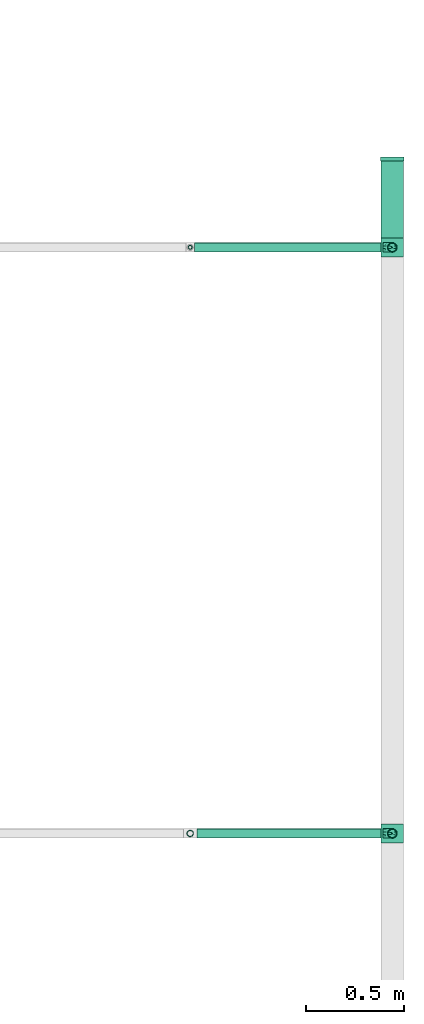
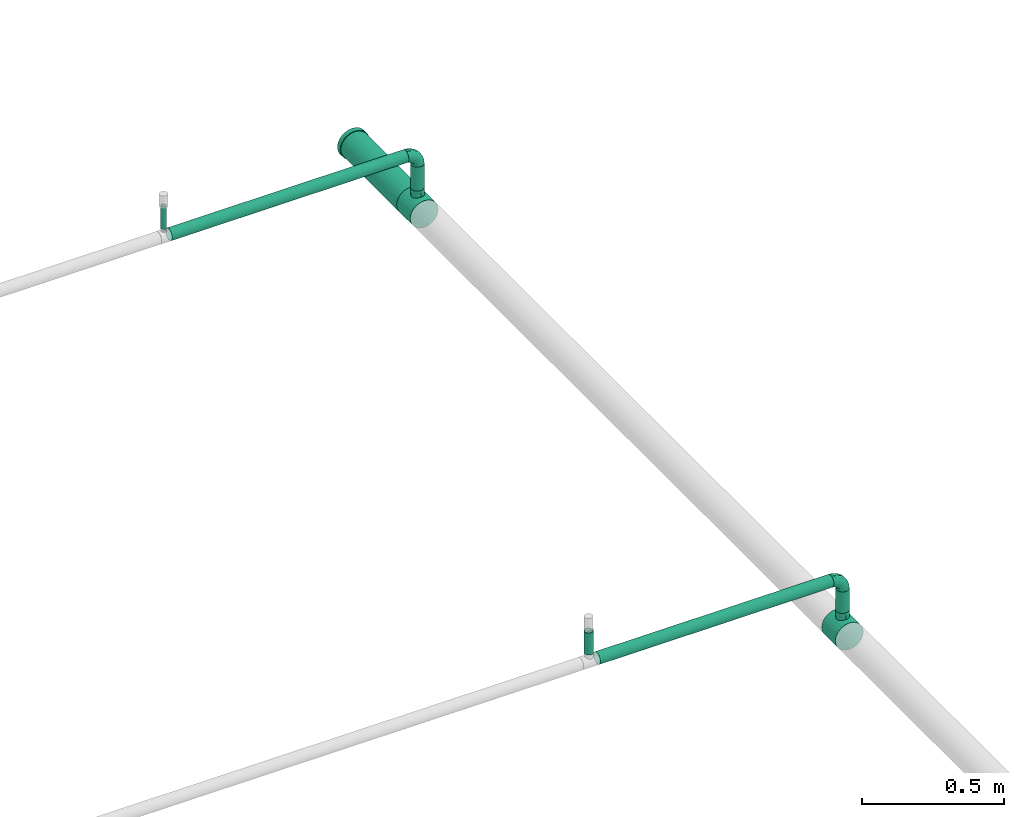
# One storey, part 6 of 14: 7 flow segments, 5 flow fittings.
"""IFC2X3 building model written with IfcOpenShell, lengths in millimetres."""

from ifc_helpers import new_model, entity, si_unit, converted_unit, derived_unit, direction, frame, origin_with_axes, origin_2d_with_axis, place, context, subcontext, project, spatial, hollow_circle, extrude, open_shell, surface_model, source, transform, mapped, type_object, element, save


model = new_model("IFC2X3")

# Units and contexts
model_context = context("Model", 3, precision=0.01, world=frame((0.0, 4.29681676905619e-09, 0.0)), true_north=direction((4.01073788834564e-13, 1.0)))
plan_context = context("Plan", 3, precision=0.01, world=frame((0.0, 4.29681676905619e-09, 0.0)), true_north=direction((4.01073788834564e-13, 1.0)))
body_context = subcontext(model_context, "Body", "Model", "MODEL_VIEW")
ifc_project = project(units=[converted_unit("PLANEANGLEUNIT", "DEGREE", entity("IfcPositiveLengthMeasure", 0.0174532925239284), si_unit("PLANEANGLEUNIT", "RADIAN"), dimensions=[0, 0, 0, 0, 0, 0, 0]), si_unit("AREAUNIT", "SQUARE_METRE"), si_unit("LENGTHUNIT", "METRE", prefix="MILLI"), si_unit("MASSUNIT", "GRAM", prefix="KILO"), si_unit("POWERUNIT", "WATT"), si_unit("PRESSUREUNIT", "PASCAL"), si_unit("FORCEUNIT", "NEWTON", prefix="KILO"), si_unit("ELECTRICVOLTAGEUNIT", "VOLT"), si_unit("ELECTRICCURRENTUNIT", "AMPERE"), si_unit("THERMODYNAMICTEMPERATUREUNIT", "DEGREE_CELSIUS"), si_unit("TIMEUNIT", "SECOND"), si_unit("VOLUMEUNIT", "CUBIC_METRE"), derived_unit("LINEARVELOCITYUNIT", [(si_unit("LENGTHUNIT", "METRE"), 1), (si_unit("TIMEUNIT", "SECOND"), -1)]), derived_unit("VOLUMETRICFLOWRATEUNIT", [(si_unit("VOLUMEUNIT", "CUBIC_METRE"), 1), (si_unit("TIMEUNIT", "SECOND"), -1)]), derived_unit("THERMALTRANSMITTANCEUNIT", [(si_unit("POWERUNIT", "WATT"), 1), (si_unit("THERMODYNAMICTEMPERATUREUNIT", "KELVIN"), -1), (si_unit("AREAUNIT", "SQUARE_METRE"), -1)]), derived_unit("SOUNDPRESSUREUNIT", [(si_unit("PRESSUREUNIT", "PASCAL"), 1)])], contexts=[model_context, plan_context])

# Site, building, storey
site_placement = place(None, frame((0.0, -4.29681676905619e-09, 0.0), z_axis=(0.0, 0.0, 1.0), x_axis=(1.0, 0.0, 0.0)))
site = spatial("IfcSite", under=ifc_project, at=site_placement, CompositionType="ELEMENT")
building_placement = place(site_placement, frame((0.0, 4.29681676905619e-09, 0.0), z_axis=(0.0, 0.0, 1.0), x_axis=(1.0, 0.0, 0.0)))
building = spatial("IfcBuilding", under=site, at=building_placement, Name="mc-building", CompositionType="ELEMENT")
storey_placement = place(building_placement, frame((0.0, 0.0, 204000.0), z_axis=(0.0, 0.0, 1.0), x_axis=(1.0, 0.0, 0.0)))
storey = spatial("IfcBuildingStorey", under=building, at=storey_placement, Name="Nivå D", CompositionType="ELEMENT", Elevation=204000.0)

# Flow fittings
pipe_fitting_type_1 = type_object("IfcPipeFittingType", Name="magi_sewer_endcap_001", PredefinedType="OBSTRUCTION")
shared_shape_1 = source(origin_with_axes(), body_context, "Body", "SurfaceModel", [
    surface_model("IfcShellBasedSurfaceModel", [(20.0, 30.0, -51.96152), (20.0, -42.42641, -42.42641), (20.0, 15.52914, -57.95555), (20.0, 51.96152, -30.0), (20.0, 42.42641, -42.42641), (20.0, 57.95555, -15.52914), (20.0, 60.0, 0.0), (20.0, 0.0, -60.0), (20.0, -30.0, -51.96152), (20.0, -15.52914, -57.95555), (20.0, 57.95555, 15.52914), (20.0, -51.96152, -30.0), (20.0, -60.0, 0.0), (20.0, -57.95555, -15.52914), (20.0, 51.96152, 30.0), (20.0, 42.42641, 42.42641), (20.0, 15.52914, 57.95555), (20.0, 0.0, 60.0), (20.0, 30.0, 51.96152), (20.0, -51.96152, 30.0), (20.0, -57.95555, 15.52914), (20.0, -30.0, 51.96152), (20.0, -42.42641, 42.42641), (20.0, -15.52914, 57.95555), (0.0, 42.42641, 42.42641), (0.0, 0.0, 60.0), (0.0, 15.52914, 57.95555), (0.0, 30.0, 51.96152), (0.0, 51.96152, 30.0), (0.0, 57.95555, 15.52914), (0.0, -60.0, 0.0), (0.0, -30.0, 51.96152), (0.0, -51.96152, 30.0), (0.0, -42.42641, 42.42641), (0.0, -15.52914, 57.95555), (0.0, -57.95555, 15.52914), (0.0, -51.96152, -30.0), (0.0, -42.42641, -42.42641), (0.0, 57.95555, -15.52914), (0.0, 42.42641, -42.42641), (0.0, 51.96152, -30.0), (0.0, 30.0, -51.96152), (0.0, 15.52914, -57.95555), (0.0, -57.95555, -15.52914), (0.0, -30.0, -51.96152), (0.0, 0.0, -60.0), (0.0, -15.52914, -57.95555), (0.0, 60.0, 0.0)], [open_shell([[[0, 1, 2]], [[3, 0, 4]], [[5, 6, 0]], [[5, 0, 3]], [[1, 0, 6]], [[7, 8, 9]], [[8, 7, 1]], [[2, 1, 7]], [[1, 10, 11]], [[11, 12, 13]], [[10, 1, 6]], [[10, 14, 15]], [[12, 10, 15]], [[16, 17, 15]], [[16, 15, 18]], [[19, 15, 17]], [[12, 19, 20]], [[12, 15, 19]], [[19, 21, 22]], [[19, 17, 21]], [[23, 21, 17]], [[10, 12, 11]], [[24, 25, 26]], [[24, 26, 27]], [[24, 28, 29]], [[25, 24, 30]], [[30, 24, 29]], [[31, 32, 33]], [[31, 34, 25]], [[32, 30, 35]], [[31, 25, 32]], [[25, 30, 32]], [[29, 36, 30]], [[37, 29, 38]], [[39, 38, 40]], [[41, 42, 38]], [[41, 38, 39]], [[37, 38, 42]], [[37, 36, 29]], [[43, 30, 36]], [[44, 45, 46]], [[45, 44, 37]], [[45, 37, 42]], [[47, 38, 29]], [[43, 13, 30]], [[36, 11, 43]], [[8, 37, 44]], [[36, 37, 1]], [[9, 44, 46]], [[43, 11, 13]], [[13, 12, 30]], [[9, 8, 44]], [[1, 37, 8]], [[1, 11, 36]], [[7, 9, 46]], [[46, 45, 7]], [[42, 2, 45]], [[41, 0, 42]], [[3, 39, 40]], [[41, 39, 4]], [[5, 40, 38]], [[41, 4, 0]], [[0, 2, 42]], [[6, 5, 38]], [[3, 40, 5]], [[3, 4, 39]], [[47, 6, 38]], [[45, 2, 7]], [[29, 10, 47]], [[28, 14, 29]], [[18, 24, 27]], [[28, 24, 15]], [[16, 27, 26]], [[29, 14, 10]], [[10, 6, 47]], [[16, 18, 27]], [[15, 24, 18]], [[15, 14, 28]], [[17, 16, 26]], [[26, 25, 17]], [[34, 23, 25]], [[31, 21, 34]], [[19, 33, 32]], [[31, 33, 22]], [[20, 32, 35]], [[31, 22, 21]], [[21, 23, 34]], [[12, 20, 35]], [[19, 32, 20]], [[19, 22, 33]], [[30, 12, 35]], [[25, 23, 17]]])]),
])
flow_fitting_placement = place(storey_placement, frame((609234.47302, 697244.26106, 5902.60000000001), z_axis=(0.0, 0.0, 1.0), x_axis=(0.0, 1.0, 0.0)))
element("IfcFlowFitting", 1, at=flow_fitting_placement, inside=storey, type_object=pipe_fitting_type_1, Name="magi_sewer_endcap_001", context=body_context, shape_type="MappedRepresentation", body=[
    mapped(shared_shape_1, transform((0.0, 0.0, 0.0), scale=1.0)),
])
pipe_fitting_type_2 = type_object("IfcPipeFittingType", Name="magi_pipe_fe_tee_centric_90_NOR", PredefinedType="JUNCTION")
shared_shape_2 = source(origin_with_axes(), body_context, "Body", "SurfaceModel", [
    surface_model("IfcShellBasedSurfaceModel", [(0.0, -85.8, -24.2), (6.26342, -85.8, -23.37541), (12.1, -85.8, -20.95781), (12.1, -85.8, 20.95781), (17.11198, -85.8, -17.11198), (20.95781, -85.8, -12.1), (23.37541, -85.8, -6.26342), (-12.1, -85.8, -20.95781), (-20.95781, -85.8, -12.1), (-17.11198, -85.8, -17.11198), (-6.26342, -85.8, -23.37541), (-23.37541, -85.8, -6.26342), (-24.2, -85.8, 0.0), (24.2, -85.8, 0.0), (23.37541, -85.8, 6.26342), (20.95781, -85.8, 12.1), (-23.37541, -85.8, 6.26342), (17.11198, -85.8, 17.11198), (6.26342, -85.8, 23.37541), (-17.11198, -85.8, 17.11198), (-20.95781, -85.8, 12.1), (-12.1, -85.8, 20.95781), (0.0, -85.8, 24.2), (-6.26342, -85.8, 23.37541), (-23.4577, -56.89395, 4.17285), (-4.25098, -52.0026, 23.82371), (-8.20207, -52.6185, 22.37537), (-12.15317, -53.23438, 20.92703), (-22.7154, -56.58789, 8.3457), (23.45736, -56.89381, 4.17377), (22.71472, -56.58762, 8.34755), (-18.5206, -55.03828, 15.5765), (-24.2, -57.2, 0.0), (8.19772, -52.61799, 22.37656), (4.24432, -52.00206, 23.8249), (-0.00333, -52.00233, 23.8243), (12.15111, -53.23391, 20.92823), (18.51418, -55.03613, 15.58413), (24.2, -57.2, 0.0), (23.45736, -56.89381, -4.17377), (18.51418, -55.03613, -15.58413), (8.19772, -52.61799, -22.37656), (12.15111, -53.23391, -20.92823), (22.71472, -56.58762, -8.34755), (4.24432, -52.00206, -23.8249), (-4.25098, -52.0026, -23.82371), (-0.00333, -52.00233, -23.8243), (-8.20207, -52.6185, -22.37537), (-23.4577, -56.89395, -4.17285), (-12.15317, -53.23438, -20.92703), (-22.7154, -56.58789, -8.3457), (-18.5206, -55.03828, -15.5765), (-48.4, 0.0, -57.2), (-48.4, -14.80445, -55.25096), (-48.4, 14.80445, -55.25096), (-48.4, 28.6, -49.53665), (-48.4, 40.44651, -40.44651), (-48.4, 55.25096, -14.80445), (-48.4, 49.53665, -28.6), (-48.4, -28.6, -49.53665), (-48.4, -40.44651, -40.44651), (-48.4, -49.53665, -28.6), (-48.4, -55.25096, -14.80445), (-48.4, -57.2, 0.0), (-48.4, -28.6, 49.53665), (-48.4, 49.53665, 28.6), (-48.4, 55.25096, 14.80445), (-48.4, 57.2, 0.0), (-48.4, 40.44651, 40.44651), (-48.4, 14.80445, 55.25096), (-48.4, 28.6, 49.53665), (-48.4, 0.0, 57.2), (-48.4, -55.25096, 14.80445), (-48.4, -49.53665, 28.6), (-48.4, -40.44651, 40.44651), (-48.4, -14.80445, 55.25096), (48.4, 14.80445, -55.25096), (48.4, -14.80445, -55.25096), (48.4, 0.0, -57.2), (48.4, 40.44651, -40.44651), (48.4, 28.6, -49.53665), (48.4, 49.53665, -28.6), (48.4, 55.25096, -14.80445), (48.4, -40.44651, -40.44651), (48.4, -28.6, -49.53665), (48.4, -49.53665, -28.6), (48.4, -40.44651, 40.44651), (48.4, -55.25096, -14.80445), (48.4, -57.2, 0.0), (48.4, -28.6, 49.53665), (48.4, 57.2, 0.0), (48.4, 55.25096, 14.80445), (48.4, 49.53665, 28.6), (48.4, 40.44651, 40.44651), (48.4, 28.6, 49.53665), (48.4, 14.80445, 55.25096), (48.4, 0.0, 57.2), (48.4, -49.53665, 28.6), (48.4, -55.25096, 14.80445), (48.4, -14.80445, 55.25096), (48.4, -56.22548, 7.40222), (-48.4, -56.22548, 7.40222), (48.4, -56.22548, -7.40222), (-48.4, -56.22548, -7.40222)], [open_shell([[[0, 1, 2]], [[3, 0, 2]], [[4, 5, 6]], [[4, 6, 2]], [[3, 7, 0]], [[7, 8, 9]], [[7, 10, 0]], [[7, 11, 8]], [[11, 7, 12]], [[7, 3, 12]], [[13, 2, 6]], [[13, 14, 15]], [[13, 15, 3]], [[3, 16, 12]], [[3, 15, 17]], [[16, 3, 18]], [[16, 19, 20]], [[16, 18, 19]], [[21, 22, 23]], [[22, 21, 19]], [[18, 22, 19]], [[3, 2, 13]], [[16, 24, 12]], [[22, 25, 23]], [[26, 21, 23]], [[26, 27, 21]], [[16, 28, 24]], [[28, 16, 20]], [[29, 30, 14]], [[31, 20, 19]], [[24, 32, 12]], [[28, 20, 31]], [[3, 33, 18]], [[27, 31, 19]], [[23, 25, 26]], [[27, 19, 21]], [[22, 34, 35]], [[3, 36, 33]], [[17, 36, 3]], [[30, 15, 14]], [[17, 15, 37]], [[34, 22, 18]], [[33, 34, 18]], [[35, 25, 22]], [[36, 17, 37]], [[37, 15, 30]], [[13, 29, 14]], [[29, 13, 38]], [[6, 39, 13]], [[4, 40, 5]], [[41, 42, 2]], [[6, 43, 39]], [[5, 43, 6]], [[42, 4, 2]], [[39, 38, 13]], [[43, 5, 40]], [[1, 44, 41]], [[42, 40, 4]], [[0, 45, 46]], [[7, 47, 10]], [[48, 12, 32]], [[47, 7, 49]], [[41, 2, 1]], [[48, 50, 11]], [[9, 49, 7]], [[50, 8, 11]], [[51, 9, 8]], [[45, 0, 10]], [[47, 45, 10]], [[46, 44, 0]], [[49, 9, 51]], [[51, 8, 50]], [[12, 48, 11]], [[0, 44, 1]], [[52, 53, 54]], [[55, 54, 56]], [[57, 58, 56]], [[54, 57, 56]], [[57, 54, 53]], [[59, 60, 53]], [[61, 53, 60]], [[62, 63, 61]], [[53, 61, 63]], [[64, 53, 63]], [[64, 57, 53]], [[65, 66, 67]], [[68, 65, 67]], [[69, 70, 68]], [[67, 69, 68]], [[71, 69, 67]], [[72, 73, 63]], [[73, 74, 63]], [[75, 71, 64]], [[74, 64, 63]], [[64, 71, 67]], [[67, 57, 64]], [[76, 77, 78]], [[79, 76, 80]], [[79, 81, 82]], [[79, 82, 76]], [[77, 76, 82]], [[77, 83, 84]], [[77, 82, 83]], [[82, 85, 83]], [[85, 86, 87]], [[86, 88, 87]], [[89, 85, 82]], [[90, 91, 92]], [[93, 82, 92]], [[93, 94, 95]], [[95, 82, 93]], [[96, 82, 95]], [[88, 97, 98]], [[88, 86, 97]], [[89, 96, 99]], [[85, 89, 86]], [[96, 89, 82]], [[92, 82, 90]], [[100, 98, 30]], [[38, 88, 100]], [[89, 64, 86]], [[28, 31, 72]], [[97, 74, 73]], [[95, 94, 70]], [[65, 93, 92]], [[28, 72, 101]], [[38, 100, 30]], [[81, 56, 58]], [[43, 87, 102]], [[32, 103, 50]], [[83, 60, 84]], [[61, 83, 85]], [[43, 40, 87]], [[61, 44, 45]], [[45, 49, 61]], [[51, 50, 62]], [[50, 103, 62]], [[103, 32, 63]], [[49, 62, 61]], [[98, 37, 30]], [[34, 97, 73]], [[37, 98, 36]], [[34, 36, 97]], [[97, 86, 74]], [[36, 98, 97]], [[28, 101, 32]], [[63, 32, 101]], [[27, 25, 73]], [[73, 72, 27]], [[25, 34, 73]], [[27, 72, 31]], [[86, 64, 74]], [[71, 99, 96]], [[75, 89, 99]], [[69, 96, 95]], [[92, 91, 66]], [[68, 94, 93]], [[67, 91, 90]], [[64, 89, 75]], [[75, 99, 71]], [[69, 71, 96]], [[95, 70, 69]], [[70, 94, 68]], [[65, 68, 93]], [[66, 65, 92]], [[91, 67, 66]], [[67, 90, 82]], [[57, 82, 81]], [[56, 81, 79]], [[78, 77, 53]], [[54, 80, 76]], [[78, 52, 76]], [[79, 80, 55]], [[59, 77, 84]], [[58, 57, 81]], [[67, 82, 57]], [[56, 79, 55]], [[55, 80, 54]], [[52, 54, 76]], [[53, 52, 78]], [[77, 59, 53]], [[84, 60, 59]], [[42, 44, 85]], [[85, 87, 42]], [[61, 85, 44]], [[88, 38, 102]], [[43, 102, 38]], [[87, 40, 42]], [[60, 83, 61]], [[51, 62, 49]]])]),
])
for number, where, z_axis, x_axis, name in (
    (2, (609234.47302, 696802.46783, 5902.60000000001), (-1.0, 0.0, 0.0), (0.0, 1.0, 0.0), "magi_pipe_fe_tee_centric_90_NOR"),
    (3, (609234.47302, 693802.46783, 5902.60000000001), (-1.0, 0.0, 0.0), (0.0, 1.0, 0.0), "magi_pipe_fe_tee_centric_90_NOR"),
):
    element("IfcFlowFitting", number, at=place(storey_placement, frame(where, z_axis=z_axis, x_axis=x_axis)), inside=storey, type_object=pipe_fitting_type_2, Name=name, context=body_context, shape_type="MappedRepresentation", body=[
        mapped(shared_shape_2, transform((0.0, 0.0, 0.0), scale=1.0)),
    ])
pipe_fitting_type_3 = type_object("IfcPipeFittingType", Name="magi_pipe_fe_elbow_short_001", PredefinedType="BEND")
shared_shape_3 = source(origin_with_axes(), body_context, "Body", "SurfaceModel", [
    surface_model("IfcShellBasedSurfaceModel", [(-48.39495, 6.26342, -23.37541), (-48.39495, 0.0, -24.2), (-48.39495, 17.11198, -17.11198), (-48.39495, 12.1, -20.95781), (-48.39495, 23.37541, -6.26342), (-48.39495, 20.95781, -12.1), (-48.39495, -12.1, -20.95781), (-48.39495, -17.11198, -17.11198), (-48.39495, -20.95781, -12.1), (-48.39495, -6.26342, -23.37541), (-48.39495, -23.37541, -6.26342), (-48.39495, -24.2, 0.0), (-48.39495, -23.37541, 6.26342), (-48.39495, 23.37541, 6.26342), (-48.39495, 6.26342, 23.37541), (-48.39495, 20.95781, 12.1), (-48.39495, 17.11198, 17.11198), (-48.39495, 12.1, 20.95781), (-48.39495, -12.1, 20.95781), (-48.39495, -20.95781, 12.1), (-48.39495, -17.11198, 17.11198), (-48.39495, -6.26342, 23.37541), (-48.39495, 0.0, 24.2), (-48.39495, 24.2, 0.0), (-17.10694, 48.39674, -17.11198), (0.00505, 48.39495, -24.2), (-6.25837, 48.39561, -23.37541), (-12.09495, 48.39621, -20.95781), (12.10505, 48.39369, -20.95781), (12.10505, 48.39369, 20.95781), (-20.95277, 48.39714, -12.1), (20.96286, 48.39277, -12.1), (17.11703, 48.39317, -17.11198), (6.26847, 48.3943, -23.37541), (23.38045, 48.39252, -6.26342), (23.38045, 48.39252, 6.26342), (24.20505, 48.39243, 0.0), (-23.37036, 48.39739, -6.26342), (-24.19495, 48.39748, 0.0), (-23.37036, 48.39739, 6.26342), (-20.95277, 48.39714, 12.1), (-12.09495, 48.39621, 20.95781), (-6.25837, 48.39561, 23.37541), (-17.10694, 48.39674, 17.11198), (17.11703, 48.39317, 17.11198), (20.96286, 48.39277, 12.1), (0.00505, 48.39495, 24.2), (6.26847, 48.3943, 23.37541), (-35.49835, -18.80067, 13.58527), (-31.77393, -13.96169, 18.03285), (-34.50442, -21.43719, 0.0), (-21.38691, -15.41121, 12.21423), (-32.15781, -21.12196, 7.54758), (21.12531, 32.1556, 7.54758), (17.07794, 18.95011, 6.20365), (18.67653, 20.61194, 0.0), (-23.65163, 38.62202, 10.51808), (-20.21196, 37.67402, 15.89849), (-35.56481, -9.151, 21.7726), (-36.96567, -3.20585, 23.78615), (-33.88345, 3.70951, 24.15874), (-8.83778, -10.8065, 0.0), (-18.95189, -17.07597, 6.20365), (-20.61389, -18.67438, 0.0), (-18.69375, -5.87403, 20.10505), (-24.08986, -0.21756, 23.45602), (-2.07801, -4.09022, 10.90557), (-0.40409, 0.49725, 14.45705), (-8.22338, -5.79591, 14.91067), (-37.82566, 20.17361, 15.88157), (-8.40808, 23.79597, 24.15652), (-17.92221, 17.92408, 23.61187), (-14.40757, 10.57402, 24.07544), (-41.865, 14.65508, 19.71864), (-9.02908, 41.74, 22.66758), (-3.31296, 36.1955, 24.14055), (-38.63159, 23.65175, 10.51647), (-38.25646, 25.7757, 5.32042), (-30.04344, 30.04658, 9.04604), (-37.29962, 9.49118, 22.86033), (-6.31426, 16.20517, 23.7619), (-12.02105, 4.43931, 22.59825), (-2.46883, 13.07252, 22.23952), (-4.32047, 4.32092, 19.78596), (13.965, 31.77248, 18.03285), (15.41344, 21.3853, 12.21423), (18.80438, 35.49639, 13.58527), (-25.72438, 16.41917, 22.38349), (-26.58892, 10.3654, 23.76691), (3.20971, 36.96534, 23.78615), (9.15471, 35.56385, 21.7726), (5.87598, 18.69313, 20.10505), (21.44079, 34.50218, 0.0), (-23.7433, 5.92981, 24.18969), (-22.40019, 25.55342, 19.88499), (-33.32089, 16.427, 20.37872), (-25.46942, 39.03792, 5.19169), (-30.32602, 31.73937, 4.25884), (11.04791, 19.59522, 16.55192), (-27.43798, 36.29854, 0.0), (-10.46242, 32.78885, 23.04703), (-13.80665, 25.04925, 23.26339), (-17.54151, 31.27588, 20.33933), (-19.27691, 23.42722, 22.01911), (-14.78026, 40.57623, 19.81908), (-19.59637, -11.04586, 16.55192), (-25.09333, 32.07805, 13.6973), (-25.50626, 27.02442, 17.14176), (-31.07693, 26.00298, 13.49414), (0.22007, 24.08984, 23.45602), (5.51353, 8.4012, 15.32779), (-11.48107, -10.8025, 11.36), (1.43966, -3.14414, 6.55329), (7.35383, 4.30878, 8.44905), (7.50226, 2.50186, 3.62735), (12.46678, 10.08742, 5.71029), (12.15833, 12.55306, 10.15046), (-36.29568, 27.44176, 0.0), (-6.51653, -9.62258, 7.02763), (2.93832, -2.93863, 0.0), (10.80743, 8.83665, 0.0), (-19.59637, -11.04586, -16.55192), (-31.77393, -13.96169, -18.03285), (-18.69375, -5.87403, -20.10505), (-21.38691, -15.41121, -12.21423), (-37.67191, 20.21589, -15.89849), (-40.57469, 14.78449, -19.81908), (-39.03527, 25.47349, -5.19169), (-32.15781, -21.12196, -7.54758), (-30.04344, 30.04658, -9.04604), (-38.61956, 23.65566, -10.51808), (-18.95189, -17.07597, -6.20365), (-23.42521, 19.27935, -22.01911), (-25.04781, 13.80926, -23.26339), (-31.27405, 17.54478, -20.33933), (-14.65071, 41.86652, -19.71865), (-20.16966, 37.82776, -15.88157), (9.15471, 35.56385, -21.7726), (5.87598, 18.69313, -20.10505), (0.22007, 24.08984, -23.45602), (-41.73906, 9.03344, -22.66758), (-35.49835, -18.80067, -13.58527), (-35.56481, -9.151, -21.7726), (-16.41648, 25.72609, -22.38349), (-9.48729, 37.30061, -22.86033), (-10.36263, 26.59, -23.76691), (-36.96567, -3.20585, -23.78615), (-23.79509, 8.41056, -24.15652), (-17.92221, 17.92408, -23.61187), (-10.57252, 14.40867, -24.07544), (-36.19515, 3.31674, -24.14055), (-25.77171, 38.25915, -5.32042), (-23.64772, 38.63406, -10.51647), (-32.78776, 10.46584, -23.04703), (-31.73621, 30.32932, -4.25884), (-5.92734, 23.74391, -24.18969), (-25.55108, 22.40285, -19.88499), (-16.42353, 33.32261, -20.37872), (3.20971, 36.96534, -23.78615), (-3.70598, 33.88384, -24.15874), (18.80438, 35.49639, -13.58527), (13.965, 31.77248, -18.03285), (7.50227, 2.50187, -3.62735), (12.46678, 10.08742, -5.71029), (-16.20451, 6.31595, -23.7619), (-4.43805, 12.02151, -22.59825), (-13.07226, 2.47019, -22.23952), (1.43966, -3.14415, -6.55329), (-6.51653, -9.62258, -7.02763), (-2.07801, -4.09022, -10.90556), (15.41344, 21.3853, -12.21423), (21.12531, 32.1556, -7.54758), (17.07794, 18.95011, -6.20365), (-32.07543, 25.09667, -13.6973), (11.04791, 19.59522, -16.55192), (12.15833, 12.55306, -10.15046), (5.51353, 8.4012, -15.32779), (-27.02177, 25.50908, -17.14176), (-25.99974, 31.07964, -13.49414), (-24.08986, -0.21756, -23.45602), (-4.32047, 4.32092, -19.78596), (-8.22338, -5.79591, -14.91067), (-11.48107, -10.8025, -11.36), (-0.40409, 0.49725, -14.45705), (7.35383, 4.30878, -8.44906)], [open_shell([[[0, 1, 2]], [[3, 0, 2]], [[4, 5, 2]], [[6, 2, 1]], [[4, 2, 6]], [[7, 8, 6]], [[1, 9, 6]], [[8, 10, 6]], [[6, 10, 4]], [[11, 12, 10]], [[13, 4, 10]], [[14, 13, 10]], [[15, 13, 16]], [[13, 14, 17]], [[16, 13, 17]], [[10, 18, 14]], [[19, 20, 12]], [[20, 10, 12]], [[21, 22, 18]], [[20, 18, 10]], [[18, 22, 14]], [[23, 4, 13]], [[24, 25, 26]], [[24, 26, 27]], [[28, 25, 29]], [[30, 25, 24]], [[29, 25, 30]], [[28, 31, 32]], [[28, 33, 25]], [[28, 34, 31]], [[28, 29, 34]], [[34, 35, 36]], [[30, 37, 38]], [[38, 39, 40]], [[38, 40, 41]], [[41, 42, 38]], [[41, 40, 43]], [[42, 29, 30]], [[35, 44, 45]], [[35, 34, 44]], [[29, 46, 47]], [[34, 29, 44]], [[42, 46, 29]], [[30, 38, 42]], [[20, 48, 49]], [[12, 11, 50]], [[51, 48, 52]], [[53, 54, 55]], [[48, 20, 19]], [[12, 52, 19]], [[40, 56, 57]], [[49, 18, 20]], [[49, 58, 18]], [[22, 59, 60]], [[61, 62, 63]], [[58, 64, 65]], [[66, 67, 68]], [[15, 16, 69]], [[70, 71, 72]], [[17, 73, 16]], [[21, 59, 22]], [[42, 74, 75]], [[22, 60, 14]], [[15, 69, 76]], [[16, 73, 69]], [[23, 13, 77]], [[13, 15, 76]], [[77, 76, 78]], [[14, 79, 17]], [[80, 81, 82]], [[68, 83, 64]], [[84, 44, 29]], [[85, 86, 84]], [[87, 79, 88]], [[18, 58, 21]], [[46, 89, 47]], [[53, 35, 45]], [[46, 42, 75]], [[84, 90, 91]], [[45, 86, 53]], [[92, 35, 53]], [[86, 45, 44]], [[90, 29, 47]], [[53, 55, 92]], [[88, 93, 72]], [[54, 53, 85]], [[87, 94, 95]], [[78, 96, 97]], [[98, 84, 91]], [[99, 96, 38]], [[79, 14, 60]], [[96, 78, 56]], [[62, 52, 63]], [[57, 43, 40]], [[100, 70, 75]], [[101, 102, 103]], [[12, 50, 52]], [[104, 41, 43]], [[74, 42, 41]], [[57, 102, 104]], [[105, 64, 49]], [[90, 84, 29]], [[40, 39, 56]], [[56, 106, 57]], [[102, 57, 107]], [[95, 107, 69]], [[76, 108, 78]], [[100, 101, 70]], [[89, 75, 109]], [[64, 58, 49]], [[63, 52, 50]], [[59, 58, 65]], [[105, 49, 51]], [[64, 83, 81]], [[89, 90, 47]], [[36, 35, 92]], [[109, 82, 91]], [[109, 91, 90]], [[91, 83, 110]], [[111, 68, 105]], [[66, 68, 111]], [[62, 51, 52]], [[66, 112, 113]], [[114, 115, 113]], [[98, 85, 84]], [[52, 48, 19]], [[49, 48, 51]], [[84, 86, 44]], [[53, 86, 85]], [[88, 79, 60]], [[73, 79, 95]], [[96, 56, 39]], [[78, 108, 106]], [[87, 103, 94]], [[100, 74, 104]], [[108, 69, 107]], [[78, 97, 77]], [[88, 72, 71]], [[109, 75, 70]], [[81, 72, 65]], [[70, 72, 80]], [[75, 89, 46]], [[90, 89, 109]], [[58, 59, 21]], [[60, 59, 65]], [[67, 83, 68]], [[110, 113, 116]], [[88, 60, 93]], [[87, 88, 71]], [[103, 87, 71]], [[79, 87, 95]], [[101, 103, 71]], [[94, 103, 102]], [[38, 96, 39]], [[96, 99, 97]], [[99, 117, 97]], [[97, 117, 77]], [[23, 77, 117]], [[13, 76, 77]], [[60, 65, 93]], [[65, 72, 93]], [[70, 101, 71]], [[102, 101, 100]], [[69, 108, 76]], [[106, 108, 107]], [[57, 106, 107]], [[78, 106, 56]], [[57, 104, 43]], [[100, 104, 102]], [[102, 107, 94]], [[95, 94, 107]], [[64, 81, 65]], [[82, 81, 83]], [[91, 82, 83]], [[80, 82, 109]], [[70, 80, 109]], [[81, 80, 72]], [[79, 73, 17]], [[69, 73, 95]], [[104, 74, 41]], [[75, 74, 100]], [[62, 61, 118]], [[111, 62, 118]], [[113, 115, 116]], [[119, 118, 61]], [[111, 105, 51]], [[113, 112, 114]], [[120, 55, 54]], [[68, 64, 105]], [[91, 110, 98]], [[116, 98, 110]], [[62, 111, 51]], [[66, 111, 118]], [[112, 66, 118]], [[67, 113, 110]], [[118, 119, 112]], [[114, 112, 119]], [[119, 120, 114]], [[115, 120, 54]], [[120, 115, 114]], [[116, 54, 85]], [[54, 116, 115]], [[116, 85, 98]], [[113, 67, 66]], [[83, 67, 110]], [[121, 122, 123]], [[122, 121, 124]], [[5, 125, 2]], [[2, 126, 3]], [[117, 127, 23]], [[50, 10, 128]], [[127, 129, 130]], [[128, 131, 63]], [[132, 133, 134]], [[24, 135, 136]], [[137, 138, 139]], [[3, 140, 0]], [[128, 8, 141]], [[142, 6, 9]], [[128, 63, 50]], [[5, 4, 130]], [[8, 7, 141]], [[143, 144, 145]], [[146, 9, 1]], [[147, 148, 149]], [[8, 128, 10]], [[124, 141, 122]], [[150, 1, 0]], [[151, 152, 129]], [[125, 134, 126]], [[153, 147, 150]], [[127, 154, 129]], [[145, 155, 149]], [[38, 37, 151]], [[143, 156, 157]], [[152, 37, 30]], [[25, 158, 159]], [[122, 7, 6]], [[24, 27, 135]], [[144, 27, 26]], [[32, 160, 161]], [[25, 33, 158]], [[120, 162, 163]], [[130, 125, 5]], [[24, 136, 30]], [[0, 140, 150]], [[28, 161, 137]], [[142, 122, 6]], [[25, 159, 26]], [[164, 165, 166]], [[167, 168, 169]], [[31, 160, 32]], [[161, 28, 32]], [[170, 160, 171]], [[131, 128, 124]], [[36, 92, 34]], [[34, 92, 171]], [[172, 171, 55]], [[34, 171, 31]], [[144, 26, 159]], [[130, 173, 125]], [[174, 175, 176]], [[136, 152, 30]], [[28, 137, 33]], [[122, 142, 123]], [[134, 125, 177]], [[157, 177, 136]], [[152, 178, 129]], [[153, 133, 147]], [[146, 150, 179]], [[146, 142, 9]], [[11, 10, 50]], [[179, 166, 123]], [[179, 123, 142]], [[123, 180, 181]], [[138, 137, 161]], [[55, 171, 92]], [[158, 137, 139]], [[174, 161, 170]], [[138, 180, 165]], [[180, 138, 176]], [[124, 121, 182]], [[176, 183, 180]], [[61, 131, 168]], [[169, 168, 182]], [[172, 170, 171]], [[122, 141, 7]], [[128, 141, 124]], [[171, 160, 31]], [[161, 160, 170]], [[145, 144, 159]], [[135, 144, 157]], [[127, 130, 4]], [[129, 178, 173]], [[143, 132, 156]], [[153, 140, 126]], [[178, 136, 177]], [[129, 154, 151]], [[145, 149, 148]], [[179, 150, 147]], [[165, 149, 139]], [[147, 149, 164]], [[150, 146, 1]], [[142, 146, 179]], [[137, 158, 33]], [[159, 158, 139]], [[174, 138, 161]], [[184, 169, 183]], [[145, 159, 155]], [[143, 145, 148]], [[132, 143, 148]], [[144, 143, 157]], [[133, 132, 148]], [[156, 132, 134]], [[23, 127, 4]], [[127, 117, 154]], [[117, 99, 154]], [[154, 99, 151]], [[38, 151, 99]], [[37, 152, 151]], [[159, 139, 155]], [[139, 149, 155]], [[147, 133, 148]], [[134, 133, 153]], [[136, 178, 152]], [[173, 178, 177]], [[125, 173, 177]], [[129, 173, 130]], [[125, 126, 2]], [[153, 126, 134]], [[134, 177, 156]], [[157, 156, 177]], [[138, 165, 139]], [[166, 165, 180]], [[123, 166, 180]], [[164, 166, 179]], [[147, 164, 179]], [[165, 164, 149]], [[144, 135, 27]], [[136, 135, 157]], [[126, 140, 3]], [[150, 140, 153]], [[182, 131, 124]], [[168, 119, 61]], [[119, 167, 162]], [[63, 131, 61]], [[172, 163, 175]], [[172, 55, 120]], [[123, 181, 121]], [[182, 121, 181]], [[175, 174, 170]], [[176, 138, 174]], [[169, 182, 181]], [[131, 182, 168]], [[183, 169, 181]], [[167, 169, 184]], [[162, 167, 184]], [[119, 168, 167]], [[163, 162, 184]], [[120, 119, 162]], [[175, 163, 184]], [[120, 163, 172]], [[176, 175, 184]], [[172, 175, 170]], [[180, 183, 181]], [[184, 183, 176]]])]),
])
for number, where, z_axis, x_axis, name in (
    (4, (609234.47302, 696802.46783, 6139.86897000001), (0.0, -1.0, 0.0), (0.0, 0.0, 1.0), "magi_pipe_fe_elbow_short_001"),
    (5, (609234.47302, 693802.46783, 6129.19542999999), (0.0, -1.0, 0.0), (0.0, 0.0, 1.0), "magi_pipe_fe_elbow_short_001"),
):
    element("IfcFlowFitting", number, at=place(storey_placement, frame(where, z_axis=z_axis, x_axis=x_axis)), inside=storey, type_object=pipe_fitting_type_3, Name=name, context=body_context, shape_type="MappedRepresentation", body=[
        mapped(shared_shape_3, transform((0.0, 0.0, 0.0), scale=1.0)),
    ])

# Flow segments
pipe_segment_type = type_object("IfcPipeSegmentType", Name="Stålrør normaltykke", PredefinedType="RIGIDSEGMENT")
shared_shape_4 = source(origin_with_axes(), body_context, "Body", "SweptSolid", [
    extrude(hollow_circle(Radius=10.7, WallThickness=2.0, at=origin_2d_with_axis()), frame((0.0, 0.0, 0.0), z_axis=(1.0, 0.0, 0.0), x_axis=(0.0, 1.0, 0.0)), (0.0, 0.0, 1.0), 96.7),
])
flow_segment_1_placement = place(storey_placement, frame((608200.0, 696802.46783, 6176.29999999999), z_axis=(0.0, 1.0, 0.0), x_axis=(0.0, 0.0, 1.0)))
element("IfcFlowSegment", 6, at=flow_segment_1_placement, inside=storey, type_object=pipe_segment_type, Name="Stålrør normaltykke", context=body_context, shape_type="MappedRepresentation", body=[
    mapped(shared_shape_4, transform((0.0, 0.0, 0.0), scale=1.0, scale2=1.0, scale3=1.0, uniform=False)),
])
shared_shape_5 = source(origin_with_axes(), body_context, "Body", "SweptSolid", [
    extrude(hollow_circle(Radius=24.1, WallThickness=2.0, at=origin_2d_with_axis()), frame((0.0, 0.0, 0.0), z_axis=(1.0, 0.0, 0.0), x_axis=(0.0, 1.0, 0.0)), (0.0, 0.0, 1.0), 964.7),
])
flow_segment_2_placement = place(storey_placement, frame((608221.4, 696802.46783, 6140.0), z_axis=(0.0, 0.0, 1.0), x_axis=(1.0, 0.0, 0.0)))
element("IfcFlowSegment", 7, at=flow_segment_2_placement, inside=storey, type_object=pipe_segment_type, Name="Stålrør normaltykke", context=body_context, shape_type="MappedRepresentation", body=[
    mapped(shared_shape_5, transform((0.0, 0.0, 0.0), scale=1.0)),
])
shared_shape_6 = source(origin_with_axes(), body_context, "Body", "SweptSolid", [
    extrude(hollow_circle(Radius=16.9, WallThickness=2.0, at=origin_2d_with_axis()), frame((0.0, 0.0, 0.0), z_axis=(1.0, 0.0, 0.0), x_axis=(0.0, 1.0, 0.0)), (0.0, 0.0, 1.0), 95.0),
])
flow_segment_3_placement = place(storey_placement, frame((608200.0, 693802.46783, 6165.62645000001), z_axis=(0.0, 1.0, 0.0), x_axis=(0.0, 0.0, 1.0)))
element("IfcFlowSegment", 8, at=flow_segment_3_placement, inside=storey, type_object=pipe_segment_type, Name="Stålrør normaltykke", context=body_context, shape_type="MappedRepresentation", body=[
    mapped(shared_shape_6, transform((0.0, 0.0, 0.0), scale=1.0)),
])
shared_shape_7 = source(origin_with_axes(), body_context, "Body", "SweptSolid", [
    extrude(hollow_circle(Radius=24.1, WallThickness=2.0, at=origin_2d_with_axis()), frame((0.0, 0.0, 0.0), z_axis=(1.0, 0.0, 0.0), x_axis=(0.0, 1.0, 0.0)), (0.0, 0.0, 1.0), 952.3),
])
flow_segment_4_placement = place(storey_placement, frame((608233.8, 693802.46783, 6129.32644999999), z_axis=(0.0, 0.0, 1.0), x_axis=(1.0, 0.0, 0.0)))
element("IfcFlowSegment", 9, at=flow_segment_4_placement, inside=storey, type_object=pipe_segment_type, Name="Stålrør normaltykke", context=body_context, shape_type="MappedRepresentation", body=[
    mapped(shared_shape_7, transform((0.0, 0.0, 0.0), scale=1.0)),
])
shared_shape_8 = source(origin_with_axes(), body_context, "Body", "SweptSolid", [
    extrude(hollow_circle(Radius=24.1, WallThickness=2.0, at=origin_2d_with_axis()), frame((0.0, 0.0, 0.0), z_axis=(1.0, 0.0, 0.0), x_axis=(0.0, 1.0, 0.0)), (0.0, 0.0, 1.0), 103.1),
])
flow_segment_5_placement = place(storey_placement, frame((609234.47302, 696802.46783, 5988.39999999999), z_axis=(1.0, 0.0, 0.0), x_axis=(0.0, 0.0, 1.0)))
element("IfcFlowSegment", 10, at=flow_segment_5_placement, inside=storey, type_object=pipe_segment_type, Name="Stålrør normaltykke", context=body_context, shape_type="MappedRepresentation", body=[
    mapped(shared_shape_8, transform((0.0, 0.0, 0.0), scale=1.0)),
])
shared_shape_9 = source(origin_with_axes(), body_context, "Body", "SweptSolid", [
    extrude(hollow_circle(Radius=57.1, WallThickness=2.0, at=origin_2d_with_axis()), frame((0.0, 0.0, 0.0), z_axis=(1.0, 0.0, 0.0), x_axis=(0.0, 1.0, 0.0)), (0.0, 0.0, 1.0), 393.4),
])
flow_segment_6_placement = place(storey_placement, frame((609234.47302, 697244.26106, 5902.60000000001), z_axis=(0.0, 0.0, 1.0), x_axis=(0.0, -1.0, 0.0)))
element("IfcFlowSegment", 11, at=flow_segment_6_placement, inside=storey, type_object=pipe_segment_type, Name="Stålrør normaltykke", context=body_context, shape_type="MappedRepresentation", body=[
    mapped(shared_shape_9, transform((0.0, 0.0, 0.0), scale=1.0)),
])
shared_shape_10 = source(origin_with_axes(), body_context, "Body", "SweptSolid", [
    extrude(hollow_circle(Radius=24.1, WallThickness=2.0, at=origin_2d_with_axis()), frame((0.0, 0.0, 0.0), z_axis=(1.0, 0.0, 0.0), x_axis=(0.0, 1.0, 0.0)), (0.0, 0.0, 1.0), 92.4),
])
flow_segment_7_placement = place(storey_placement, frame((609234.47302, 693802.46783, 5988.39999999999), z_axis=(1.0, 0.0, 0.0), x_axis=(0.0, 0.0, 1.0)))
element("IfcFlowSegment", 12, at=flow_segment_7_placement, inside=storey, type_object=pipe_segment_type, Name="Stålrør normaltykke", context=body_context, shape_type="MappedRepresentation", body=[
    mapped(shared_shape_10, transform((0.0, 0.0, 0.0), scale=1.0)),
])

save(model, "model.ifc")
